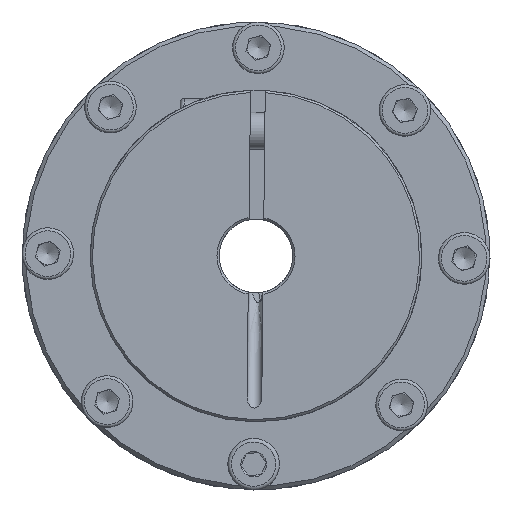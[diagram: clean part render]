
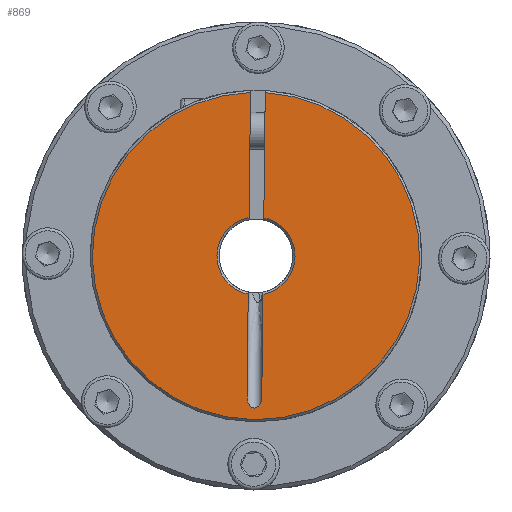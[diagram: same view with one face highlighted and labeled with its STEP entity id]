
A CAD part, left-side view. The second image highlights one B-rep face of the part: STEP entity #869.
In plain terms, the highlighted planar face has unit normal (-1, 0, 0).
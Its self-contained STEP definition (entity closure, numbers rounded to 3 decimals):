
#869 = ADVANCED_FACE( 'NONE', ( #1756 ), #1757, .F. );
#1756 = FACE_OUTER_BOUND( '', #3112, .T. );
#1757 = PLANE( '', #3113 );
#3112 = EDGE_LOOP( '', ( #4518, #4519, #4520, #4521, #4522, #4523, #4524, #4525 ) );
#3113 = AXIS2_PLACEMENT_3D( '', #4526, #4527, #4528 );
#4518 = ORIENTED_EDGE( '', *, *, #5359, .F. );
#4519 = ORIENTED_EDGE( '', *, *, #5147, .T. );
#4520 = ORIENTED_EDGE( '', *, *, #4960, .T. );
#4521 = ORIENTED_EDGE( '', *, *, #5360, .T. );
#4522 = ORIENTED_EDGE( '', *, *, #5361, .T. );
#4523 = ORIENTED_EDGE( '', *, *, #5205, .T. );
#4524 = ORIENTED_EDGE( '', *, *, #5118, .F. );
#4525 = ORIENTED_EDGE( '', *, *, #5362, .T. );
#4526 = CARTESIAN_POINT( '', ( 0., 5., 0. ) );
#4527 = DIRECTION( '', ( 1., 0., 0. ) );
#4528 = DIRECTION( '', ( 0., 1., 0. ) );
#4960 = EDGE_CURVE( 'NONE', #5605, #5606, #5607, .T. );
#5118 = EDGE_CURVE( 'NONE', #5841, #5843, #5844, .F. );
#5147 = EDGE_CURVE( 'NONE', #5888, #5605, #5889, .T. );
#5205 = EDGE_CURVE( 'NONE', #5971, #5843, #5972, .F. );
#5359 = EDGE_CURVE( 'NONE', #5888, #6177, #6178, .F. );
#5360 = EDGE_CURVE( 'NONE', #5606, #6179, #6180, .T. );
#5361 = EDGE_CURVE( 'NONE', #6179, #5971, #6181, .T. );
#5362 = EDGE_CURVE( 'NONE', #5841, #6177, #6182, .T. );
#5605 = VERTEX_POINT( 'NONE', #6627 );
#5606 = VERTEX_POINT( 'NONE', #6628 );
#5607 = LINE( '', #6629, #6630 );
#5841 = VERTEX_POINT( 'NONE', #6931 );
#5843 = VERTEX_POINT( 'NONE', #6936 );
#5844 = LINE( '', #6937, #6938 );
#5888 = VERTEX_POINT( 'NONE', #7003 );
#5889 = B_SPLINE_CURVE_WITH_KNOTS( '', 3, ( #7004, #7005, #7006, #7007, #7008, #7009, #7010, #7011, #7012, #7013, #7014, #7015, #7016, #7017, #7018, #7019, #7020, #7021 ), .UNSPECIFIED., .F., .F., ( 4, 2, 2, 2, 2, 2, 2, 2, 4 ), ( 0., 0., 0.001, 0.001, 0.002, 0.002, 0.003, 0.003, 0.004 ), .UNSPECIFIED. );
#5971 = VERTEX_POINT( 'NONE', #7149 );
#5972 = CIRCLE( '', #7150, 22.2 );
#6177 = VERTEX_POINT( 'NONE', #7395 );
#6178 = LINE( '', #7396, #7397 );
#6179 = VERTEX_POINT( 'NONE', #7398 );
#6180 = CIRCLE( '', #7399, 5.3 );
#6181 = LINE( '', #7400, #7401 );
#6182 = CIRCLE( '', #7402, 5.3 );
#6627 = CARTESIAN_POINT( '', ( 0., 1., -19.125 ) );
#6628 = CARTESIAN_POINT( '', ( 0., 1., -5.205 ) );
#6629 = CARTESIAN_POINT( '', ( 0., 1., 0. ) );
#6630 = VECTOR( '', #7655, 1000. );
#6931 = CARTESIAN_POINT( '', ( 0., -1., 5.205 ) );
#6936 = CARTESIAN_POINT( '', ( 0., -1., 22.177 ) );
#6937 = CARTESIAN_POINT( '', ( 0., -1., 13. ) );
#6938 = VECTOR( '', #7883, 1000. );
#7003 = CARTESIAN_POINT( '', ( 0., -1., -19.125 ) );
#7004 = CARTESIAN_POINT( '', ( 0., -1., -19.125 ) );
#7005 = CARTESIAN_POINT( '', ( 0., -1., -19.291 ) );
#7006 = CARTESIAN_POINT( '', ( 0., -0.983, -19.455 ) );
#7007 = CARTESIAN_POINT( '', ( 0., -0.91, -19.775 ) );
#7008 = CARTESIAN_POINT( '', ( 0., -0.854, -19.934 ) );
#7009 = CARTESIAN_POINT( '', ( 0., -0.697, -20.225 ) );
#7010 = CARTESIAN_POINT( '', ( 0., -0.593, -20.36 ) );
#7011 = CARTESIAN_POINT( '', ( 0., -0.33, -20.564 ) );
#7012 = CARTESIAN_POINT( '', ( 0., -0.169, -20.63 ) );
#7013 = CARTESIAN_POINT( '', ( 0., 0.168, -20.63 ) );
#7014 = CARTESIAN_POINT( '', ( 0., 0.328, -20.566 ) );
#7015 = CARTESIAN_POINT( '', ( 0., 0.592, -20.361 ) );
#7016 = CARTESIAN_POINT( '', ( 0., 0.695, -20.227 ) );
#7017 = CARTESIAN_POINT( '', ( 0., 0.854, -19.936 ) );
#7018 = CARTESIAN_POINT( '', ( 0., 0.909, -19.78 ) );
#7019 = CARTESIAN_POINT( '', ( 0., 0.983, -19.456 ) );
#7020 = CARTESIAN_POINT( '', ( 0., 1., -19.291 ) );
#7021 = CARTESIAN_POINT( '', ( 0., 1., -19.125 ) );
#7149 = CARTESIAN_POINT( '', ( 0., 1., 22.177 ) );
#7150 = AXIS2_PLACEMENT_3D( '', #8010, #8011, #8012 );
#7395 = CARTESIAN_POINT( '', ( 0., -1., -5.205 ) );
#7396 = CARTESIAN_POINT( '', ( 0., -1., 13. ) );
#7397 = VECTOR( '', #8191, 1000. );
#7398 = CARTESIAN_POINT( '', ( 0., 1., 5.205 ) );
#7399 = AXIS2_PLACEMENT_3D( '', #8192, #8193, #8194 );
#7400 = CARTESIAN_POINT( '', ( 0., 1., 0. ) );
#7401 = VECTOR( '', #8195, 1000. );
#7402 = AXIS2_PLACEMENT_3D( '', #8196, #8197, #8198 );
#7655 = DIRECTION( '', ( 0., 0., 1. ) );
#7883 = DIRECTION( '', ( 0., 0., -1. ) );
#8010 = CARTESIAN_POINT( '', ( 0., 0., 0. ) );
#8011 = DIRECTION( '', ( 1., 0., 0. ) );
#8012 = DIRECTION( '', ( 0., 0., -1. ) );
#8191 = DIRECTION( '', ( 0., 0., -1. ) );
#8192 = CARTESIAN_POINT( '', ( 0., 0., 0. ) );
#8193 = DIRECTION( '', ( 1., 0., 0. ) );
#8194 = DIRECTION( '', ( 0., 0., -1. ) );
#8195 = DIRECTION( '', ( 0., 0., 1. ) );
#8196 = CARTESIAN_POINT( '', ( 0., 0., 0. ) );
#8197 = DIRECTION( '', ( 1., 0., 0. ) );
#8198 = DIRECTION( '', ( 0., 0., -1. ) );
